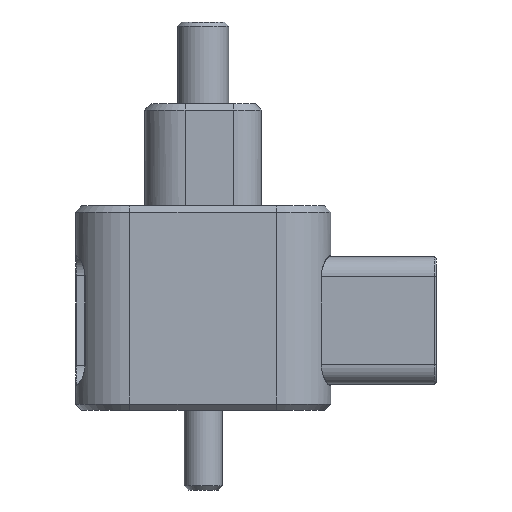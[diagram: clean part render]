
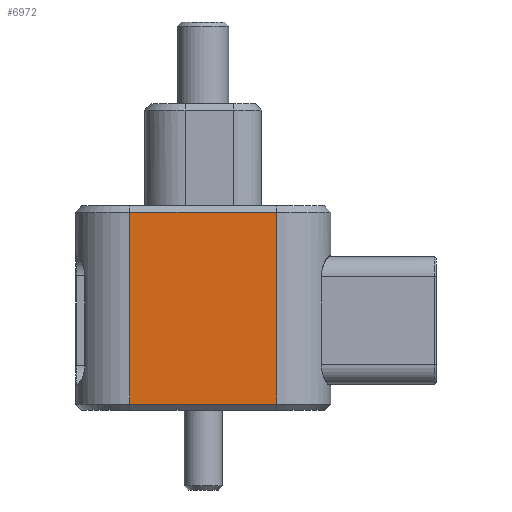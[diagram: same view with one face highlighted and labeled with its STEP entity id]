
A CAD part, front view. The second image highlights one B-rep face of the part: STEP entity #6972.
In plain terms, the highlighted planar face has unit normal (0, -1, 0).
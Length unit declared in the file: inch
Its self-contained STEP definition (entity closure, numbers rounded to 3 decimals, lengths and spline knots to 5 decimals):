
#924 = EDGE_LOOP ( 'NONE', ( #1715, #1716, #1717, #1718 ) ) ;
#1198 = FACE_OUTER_BOUND ( 'NONE', #924, .T. ) ;
#1715 = ORIENTED_EDGE ( 'NONE', *, *, #8402, .T. ) ;
#1716 = ORIENTED_EDGE ( 'NONE', *, *, #8401, .T. ) ;
#1717 = ORIENTED_EDGE ( 'NONE', *, *, #8392, .T. ) ;
#1718 = ORIENTED_EDGE ( 'NONE', *, *, #8403, .T. ) ;
#3504 = VERTEX_POINT ( 'NONE', #3972 ) ;
#3505 = VERTEX_POINT ( 'NONE', #3974 ) ;
#3506 = VERTEX_POINT ( 'NONE', #3975 ) ;
#3507 = VERTEX_POINT ( 'NONE', #3976 ) ;
#3972 = CARTESIAN_POINT ( 'NONE',  ( -0.3595, -0.4995, -0.03 ) ) ;
#3974 = CARTESIAN_POINT ( 'NONE',  ( -0.3595, -0.4995, -0.97 ) ) ;
#3975 = CARTESIAN_POINT ( 'NONE',  ( 0.3595, -0.4995, -0.97 ) ) ;
#3976 = CARTESIAN_POINT ( 'NONE',  ( 0.3595, -0.4995, -0.03 ) ) ;
#5696 = CARTESIAN_POINT ( 'NONE',  ( 0.3595, -0.4995, -1. ) ) ;
#5699 = DIRECTION ( 'NONE',  ( 0., 0., 1. ) ) ;
#5717 = CARTESIAN_POINT ( 'NONE',  ( -0.6245, -0.4995, -0.97 ) ) ;
#5718 = DIRECTION ( 'NONE',  ( 1., 0., 0. ) ) ;
#5719 = CARTESIAN_POINT ( 'NONE',  ( -0.3595, -0.4995, -1. ) ) ;
#5720 = DIRECTION ( 'NONE',  ( 0., 0., -1. ) ) ;
#5721 = CARTESIAN_POINT ( 'NONE',  ( -0.3595, -0.4995, -0.03 ) ) ;
#5722 = DIRECTION ( 'NONE',  ( -1., 0., 0. ) ) ;
#6972 = ADVANCED_FACE ( 'NONE', ( #1198 ), #11026, .T. ) ;
#7096 = LINE ( 'NONE', #5696, #7118 ) ;
#7118 = VECTOR ( 'NONE', #5699, 39.37008 ) ;
#7148 = LINE ( 'NONE', #5717, #7150 ) ;
#7150 = VECTOR ( 'NONE', #5718, 39.37008 ) ;
#7152 = LINE ( 'NONE', #5719, #7153 ) ;
#7153 = VECTOR ( 'NONE', #5720, 39.37008 ) ;
#7155 = LINE ( 'NONE', #5721, #7157 ) ;
#7157 = VECTOR ( 'NONE', #5722, 39.37008 ) ;
#8392 = EDGE_CURVE ( 'NONE', #3506, #3507, #7096, .T. ) ;
#8401 = EDGE_CURVE ( 'NONE', #3505, #3506, #7148, .T. ) ;
#8402 = EDGE_CURVE ( 'NONE', #3504, #3505, #7152, .T. ) ;
#8403 = EDGE_CURVE ( 'NONE', #3507, #3504, #7155, .T. ) ;
#8862 = AXIS2_PLACEMENT_3D ( 'NONE', #11021, #11031, #11032 ) ;
#11021 = CARTESIAN_POINT ( 'NONE',  ( -0.6245, -0.4995, -1. ) ) ;
#11026 = PLANE ( 'NONE',  #8862 ) ;
#11031 = DIRECTION ( 'NONE',  ( 0., -1., 0. ) ) ;
#11032 = DIRECTION ( 'NONE',  ( 0., 0., -1. ) ) ;
